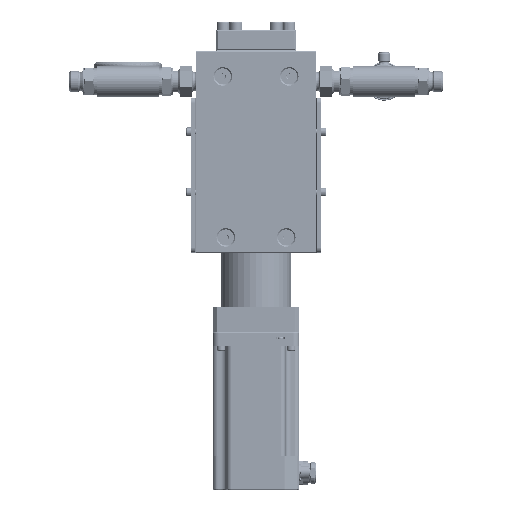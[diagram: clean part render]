
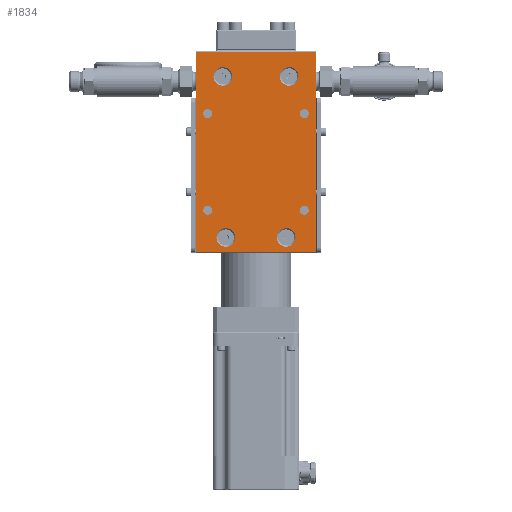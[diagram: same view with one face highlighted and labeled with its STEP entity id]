
A CAD part, front view. The second image highlights one B-rep face of the part: STEP entity #1834.
In plain terms, the highlighted planar face has unit normal (0, -1, 0).
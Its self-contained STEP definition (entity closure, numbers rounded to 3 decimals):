
#27 = CARTESIAN_POINT ( 'NONE',  ( -48., 0., 38. ) ) ;
#636 = DIRECTION ( 'NONE',  ( 0., 1., 0. ) ) ;
#1834 = ADVANCED_FACE ( 'NONE', ( #32535, #88757, #43601, #15751, #99247, #24441, #72680, #41790, #117818 ), #62187, .F. ) ;
#3726 = DIRECTION ( 'NONE',  ( 0., 0., -1. ) ) ;
#3757 = CARTESIAN_POINT ( 'NONE',  ( 59.5, 0., -99.5 ) ) ;
#4170 = AXIS2_PLACEMENT_3D ( 'NONE', #27, #636, #29125 ) ;
#4746 = AXIS2_PLACEMENT_3D ( 'NONE', #75413, #17879, #56260 ) ;
#5782 = DIRECTION ( 'NONE',  ( 0., 0., -1. ) ) ;
#5821 = VECTOR ( 'NONE', #24201, 1000. ) ;
#6675 = VERTEX_POINT ( 'NONE', #105320 ) ;
#7068 = EDGE_LOOP ( 'NONE', ( #10485 ) ) ;
#7741 = AXIS2_PLACEMENT_3D ( 'NONE', #108449, #60875, #80053 ) ;
#8051 = CARTESIAN_POINT ( 'NONE',  ( -33., 0., 65.75 ) ) ;
#10485 = ORIENTED_EDGE ( 'NONE', *, *, #114014, .F. ) ;
#11949 = DIRECTION ( 'NONE',  ( 0., 1., 0. ) ) ;
#14291 = EDGE_LOOP ( 'NONE', ( #98995 ) ) ;
#15442 = CARTESIAN_POINT ( 'NONE',  ( -30., 0., -85. ) ) ;
#15751 = FACE_BOUND ( 'NONE', #101472, .T. ) ;
#16474 = EDGE_LOOP ( 'NONE', ( #54427 ) ) ;
#17879 = DIRECTION ( 'NONE',  ( 0., 1., 0. ) ) ;
#19596 = EDGE_CURVE ( 'NONE', #80388, #43331, #61324, .T. ) ;
#19765 = VERTEX_POINT ( 'NONE', #56315 ) ;
#20188 = CARTESIAN_POINT ( 'NONE',  ( 0., 0., 99.5 ) ) ;
#21425 = ORIENTED_EDGE ( 'NONE', *, *, #42706, .F. ) ;
#22920 = LINE ( 'NONE', #60650, #94802 ) ;
#24201 = DIRECTION ( 'NONE',  ( 1., 0., 0. ) ) ;
#24357 = CARTESIAN_POINT ( 'NONE',  ( -59.5, 0., 0. ) ) ;
#24441 = FACE_BOUND ( 'NONE', #93378, .T. ) ;
#24668 = EDGE_CURVE ( 'NONE', #43331, #109534, #22920, .T. ) ;
#25709 = CARTESIAN_POINT ( 'NONE',  ( 48., 0., -53.5 ) ) ;
#27016 = AXIS2_PLACEMENT_3D ( 'NONE', #107925, #79507, #110345 ) ;
#27268 = VERTEX_POINT ( 'NONE', #90937 ) ;
#29125 = DIRECTION ( 'NONE',  ( 0., 0., 1. ) ) ;
#29220 = CIRCLE ( 'NONE', #52856, 9.25 ) ;
#30468 = CIRCLE ( 'NONE', #34372, 4.5 ) ;
#31461 = DIRECTION ( 'NONE',  ( 0., -1., 0. ) ) ;
#31957 = DIRECTION ( 'NONE',  ( 0., -1., 0. ) ) ;
#32535 = FACE_OUTER_BOUND ( 'NONE', #61394, .T. ) ;
#33521 = VECTOR ( 'NONE', #94394, 1000. ) ;
#33675 = LINE ( 'NONE', #24357, #112085 ) ;
#34138 = EDGE_CURVE ( 'NONE', #35050, #35050, #119417, .T. ) ;
#34144 = AXIS2_PLACEMENT_3D ( 'NONE', #86359, #31957, #116605 ) ;
#34372 = AXIS2_PLACEMENT_3D ( 'NONE', #108661, #98160, #41931 ) ;
#35050 = VERTEX_POINT ( 'NONE', #25709 ) ;
#37416 = CARTESIAN_POINT ( 'NONE',  ( -59.5, 0., -99.5 ) ) ;
#39998 = ORIENTED_EDGE ( 'NONE', *, *, #54710, .T. ) ;
#40957 = ORIENTED_EDGE ( 'NONE', *, *, #114520, .T. ) ;
#41790 = FACE_BOUND ( 'NONE', #7068, .T. ) ;
#41931 = DIRECTION ( 'NONE',  ( 0., 0., 1. ) ) ;
#42637 = EDGE_LOOP ( 'NONE', ( #47496 ) ) ;
#42706 = EDGE_CURVE ( 'NONE', #53262, #53262, #116810, .T. ) ;
#43331 = VERTEX_POINT ( 'NONE', #3757 ) ;
#43601 = FACE_BOUND ( 'NONE', #14291, .T. ) ;
#44123 = EDGE_CURVE ( 'NONE', #27268, #27268, #69615, .T. ) ;
#47496 = ORIENTED_EDGE ( 'NONE', *, *, #67242, .T. ) ;
#49696 = DIRECTION ( 'NONE',  ( 0., 0., 1. ) ) ;
#51365 = DIRECTION ( 'NONE',  ( 0., 0., 1. ) ) ;
#52856 = AXIS2_PLACEMENT_3D ( 'NONE', #15442, #117502, #3726 ) ;
#53262 = VERTEX_POINT ( 'NONE', #8051 ) ;
#53719 = CARTESIAN_POINT ( 'NONE',  ( 48., 0., 42.5 ) ) ;
#54427 = ORIENTED_EDGE ( 'NONE', *, *, #72406, .T. ) ;
#54710 = EDGE_CURVE ( 'NONE', #109534, #6675, #95000, .T. ) ;
#54820 = VERTEX_POINT ( 'NONE', #109211 ) ;
#56260 = DIRECTION ( 'NONE',  ( 0., 0., 1. ) ) ;
#56315 = CARTESIAN_POINT ( 'NONE',  ( -48., 0., -53.5 ) ) ;
#57541 = CIRCLE ( 'NONE', #4170, 4.5 ) ;
#58686 = CARTESIAN_POINT ( 'NONE',  ( -33., 0., 75. ) ) ;
#60650 = CARTESIAN_POINT ( 'NONE',  ( 59.5, 0., 0. ) ) ;
#60875 = DIRECTION ( 'NONE',  ( 0., -1., 0. ) ) ;
#61086 = CIRCLE ( 'NONE', #7741, 9.25 ) ;
#61324 = LINE ( 'NONE', #99003, #5821 ) ;
#61394 = EDGE_LOOP ( 'NONE', ( #39998, #40957, #94779, #76422 ) ) ;
#62187 = PLANE ( 'NONE',  #27016 ) ;
#62429 = CARTESIAN_POINT ( 'NONE',  ( 33., 0., 65.75 ) ) ;
#62596 = CARTESIAN_POINT ( 'NONE',  ( 59.5, 0., 99.5 ) ) ;
#63010 = VERTEX_POINT ( 'NONE', #62429 ) ;
#67242 = EDGE_CURVE ( 'NONE', #19765, #19765, #30468, .T. ) ;
#69615 = CIRCLE ( 'NONE', #34144, 9.25 ) ;
#72406 = EDGE_CURVE ( 'NONE', #83390, #83390, #85708, .T. ) ;
#72680 = FACE_BOUND ( 'NONE', #115326, .T. ) ;
#74107 = AXIS2_PLACEMENT_3D ( 'NONE', #78156, #11949, #49696 ) ;
#75413 = CARTESIAN_POINT ( 'NONE',  ( 48., 0., 38. ) ) ;
#76422 = ORIENTED_EDGE ( 'NONE', *, *, #24668, .T. ) ;
#76839 = VERTEX_POINT ( 'NONE', #86696 ) ;
#78156 = CARTESIAN_POINT ( 'NONE',  ( 48., 0., -58. ) ) ;
#79507 = DIRECTION ( 'NONE',  ( 0., 1., 0. ) ) ;
#80053 = DIRECTION ( 'NONE',  ( 0., 0., -1. ) ) ;
#80388 = VERTEX_POINT ( 'NONE', #37416 ) ;
#83390 = VERTEX_POINT ( 'NONE', #53719 ) ;
#84597 = ORIENTED_EDGE ( 'NONE', *, *, #44123, .F. ) ;
#85708 = CIRCLE ( 'NONE', #4746, 4.5 ) ;
#86359 = CARTESIAN_POINT ( 'NONE',  ( 30., 0., -85. ) ) ;
#86696 = CARTESIAN_POINT ( 'NONE',  ( -48., 0., 42.5 ) ) ;
#87030 = EDGE_CURVE ( 'NONE', #76839, #76839, #57541, .T. ) ;
#88757 = FACE_BOUND ( 'NONE', #42637, .T. ) ;
#90937 = CARTESIAN_POINT ( 'NONE',  ( 30., 0., -94.25 ) ) ;
#93378 = EDGE_LOOP ( 'NONE', ( #21425 ) ) ;
#94394 = DIRECTION ( 'NONE',  ( -1., 0., 0. ) ) ;
#94779 = ORIENTED_EDGE ( 'NONE', *, *, #19596, .T. ) ;
#94802 = VECTOR ( 'NONE', #51365, 1000. ) ;
#95000 = LINE ( 'NONE', #20188, #33521 ) ;
#98160 = DIRECTION ( 'NONE',  ( 0., 1., 0. ) ) ;
#98995 = ORIENTED_EDGE ( 'NONE', *, *, #34138, .T. ) ;
#99003 = CARTESIAN_POINT ( 'NONE',  ( 0., 0., -99.5 ) ) ;
#99247 = FACE_BOUND ( 'NONE', #16474, .T. ) ;
#100997 = AXIS2_PLACEMENT_3D ( 'NONE', #58686, #31461, #116727 ) ;
#101472 = EDGE_LOOP ( 'NONE', ( #121973 ) ) ;
#102380 = EDGE_CURVE ( 'NONE', #63010, #63010, #61086, .T. ) ;
#105320 = CARTESIAN_POINT ( 'NONE',  ( -59.5, 0., 99.5 ) ) ;
#107925 = CARTESIAN_POINT ( 'NONE',  ( 0., 0., 0. ) ) ;
#108300 = ORIENTED_EDGE ( 'NONE', *, *, #102380, .F. ) ;
#108449 = CARTESIAN_POINT ( 'NONE',  ( 33., 0., 75. ) ) ;
#108661 = CARTESIAN_POINT ( 'NONE',  ( -48., 0., -58. ) ) ;
#109211 = CARTESIAN_POINT ( 'NONE',  ( -30., 0., -94.25 ) ) ;
#109534 = VERTEX_POINT ( 'NONE', #62596 ) ;
#110345 = DIRECTION ( 'NONE',  ( 0., 0., 1. ) ) ;
#112085 = VECTOR ( 'NONE', #5782, 1000. ) ;
#114014 = EDGE_CURVE ( 'NONE', #54820, #54820, #29220, .T. ) ;
#114053 = EDGE_LOOP ( 'NONE', ( #84597 ) ) ;
#114520 = EDGE_CURVE ( 'NONE', #6675, #80388, #33675, .T. ) ;
#115326 = EDGE_LOOP ( 'NONE', ( #108300 ) ) ;
#116605 = DIRECTION ( 'NONE',  ( 0., 0., -1. ) ) ;
#116727 = DIRECTION ( 'NONE',  ( 0., 0., -1. ) ) ;
#116810 = CIRCLE ( 'NONE', #100997, 9.25 ) ;
#117502 = DIRECTION ( 'NONE',  ( 0., -1., 0. ) ) ;
#117818 = FACE_BOUND ( 'NONE', #114053, .T. ) ;
#119417 = CIRCLE ( 'NONE', #74107, 4.5 ) ;
#121973 = ORIENTED_EDGE ( 'NONE', *, *, #87030, .T. ) ;
